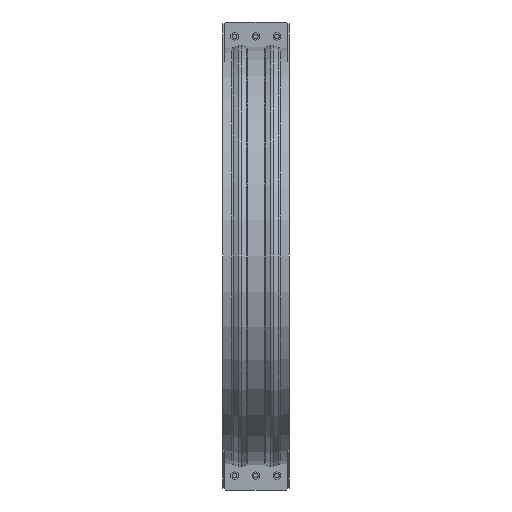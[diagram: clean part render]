
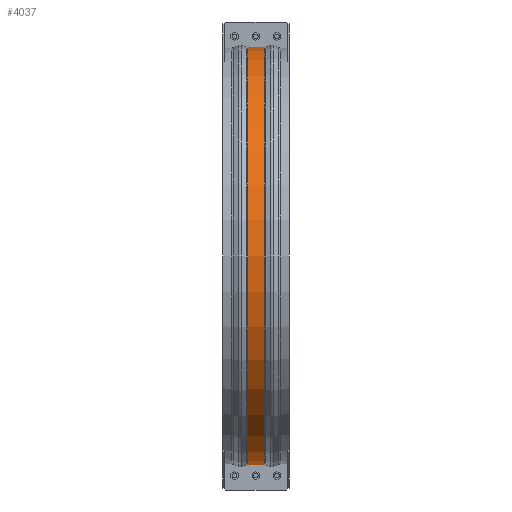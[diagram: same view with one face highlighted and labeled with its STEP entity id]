
A CAD part, front view. The second image highlights one B-rep face of the part: STEP entity #4037.
In plain terms, the highlighted cylindrical face has radius 1003.6 mm (diameter 2007.2 mm), a partial arc.
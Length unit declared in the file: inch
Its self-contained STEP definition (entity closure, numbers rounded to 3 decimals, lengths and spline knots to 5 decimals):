
#368=FACE_OUTER_BOUND('',#593,.T.);
#593=EDGE_LOOP('',(#3057,#3058,#3059,#3060));
#910=LINE('',#6241,#1299);
#918=LINE('',#6373,#1307);
#1299=VECTOR('',#4992,0.3937);
#1307=VECTOR('',#5052,0.3937);
#1551=CIRCLE('',#4321,39.51189);
#1553=CIRCLE('',#4325,39.51189);
#1812=VERTEX_POINT('',#6233);
#1813=VERTEX_POINT('',#6240);
#1828=VERTEX_POINT('',#6358);
#1830=VERTEX_POINT('',#6371);
#2259=EDGE_CURVE('',#1813,#1812,#910,.T.);
#2284=EDGE_CURVE('',#1828,#1813,#1551,.T.);
#2288=EDGE_CURVE('',#1830,#1812,#1553,.T.);
#2289=EDGE_CURVE('',#1830,#1828,#918,.T.);
#3057=ORIENTED_EDGE('',*,*,#2259,.T.);
#3058=ORIENTED_EDGE('',*,*,#2288,.F.);
#3059=ORIENTED_EDGE('',*,*,#2289,.T.);
#3060=ORIENTED_EDGE('',*,*,#2284,.T.);
#3704=CYLINDRICAL_SURFACE('',#4324,39.51189);
#4037=ADVANCED_FACE('',(#368),#3704,.T.);
#4321=AXIS2_PLACEMENT_3D('',#6359,#5041,#5042);
#4324=AXIS2_PLACEMENT_3D('',#6370,#5048,#5049);
#4325=AXIS2_PLACEMENT_3D('',#6372,#5050,#5051);
#4992=DIRECTION('',(1.,0.,0.));
#5041=DIRECTION('center_axis',(1.,0.,0.));
#5042=DIRECTION('ref_axis',(0.,0.,-1.));
#5048=DIRECTION('center_axis',(1.,0.,0.));
#5049=DIRECTION('ref_axis',(0.,-1.,0.));
#5050=DIRECTION('center_axis',(1.,0.,0.));
#5051=DIRECTION('ref_axis',(0.,0.,-1.));
#5052=DIRECTION('',(-1.,0.,0.));
#6233=CARTESIAN_POINT('',(1.60101,-0.375,-39.51011));
#6240=CARTESIAN_POINT('',(-1.60101,-0.375,-39.51011));
#6241=CARTESIAN_POINT('',(0.,-0.375,-39.51011));
#6358=CARTESIAN_POINT('',(-1.60101,-0.375,39.51011));
#6359=CARTESIAN_POINT('Origin',(-1.60101,0.,
0.));
#6370=CARTESIAN_POINT('Origin',(0.,0.,0.));
#6371=CARTESIAN_POINT('',(1.60101,-0.375,39.51011));
#6372=CARTESIAN_POINT('Origin',(1.60101,0.,0.));
#6373=CARTESIAN_POINT('',(0.,-0.375,39.51011));
